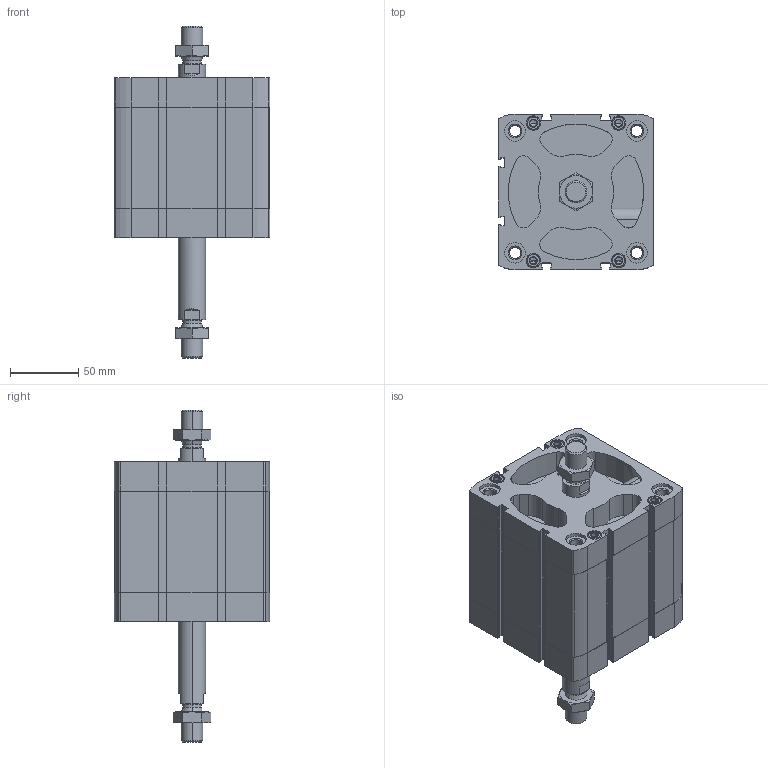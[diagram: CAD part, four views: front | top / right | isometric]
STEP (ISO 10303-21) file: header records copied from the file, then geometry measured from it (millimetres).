
FILE_DESCRIPTION (( 'STEP AP203' ), '1' );
FILE_NAME ('CCN100-50-P.STEP', '2020-06-22T19:10:58', ( '' ), ( '' ), 'SwSTEP 2.0', 'SolidWorks 2019', '' );
FILE_SCHEMA (( 'CONFIG_CONTROL_DESIGN' ));
Length unit declared in the file: millimetre
Products named in the file (1): CCN100-50-P
Bounding box: 113.5 x 113.5 x 242.4 mm (x, y, z)
Volume: 955739.4 mm3; surface area: 202153.8 mm2
Topology: 4 solids, 4 shells, 685 faces, 1757 edges, 1118 vertices
Faces by surface type: plane 305, cylinder 280, cone 92, torus 8
Entity records: 22642 total; most frequent: CARTESIAN_POINT 5549, DIRECTION 3721, ORIENTED_EDGE 3482, EDGE_CURVE 1741, AXIS2_PLACEMENT_3D 1392, VERTEX_POINT 1118, LINE 937, VECTOR 937
